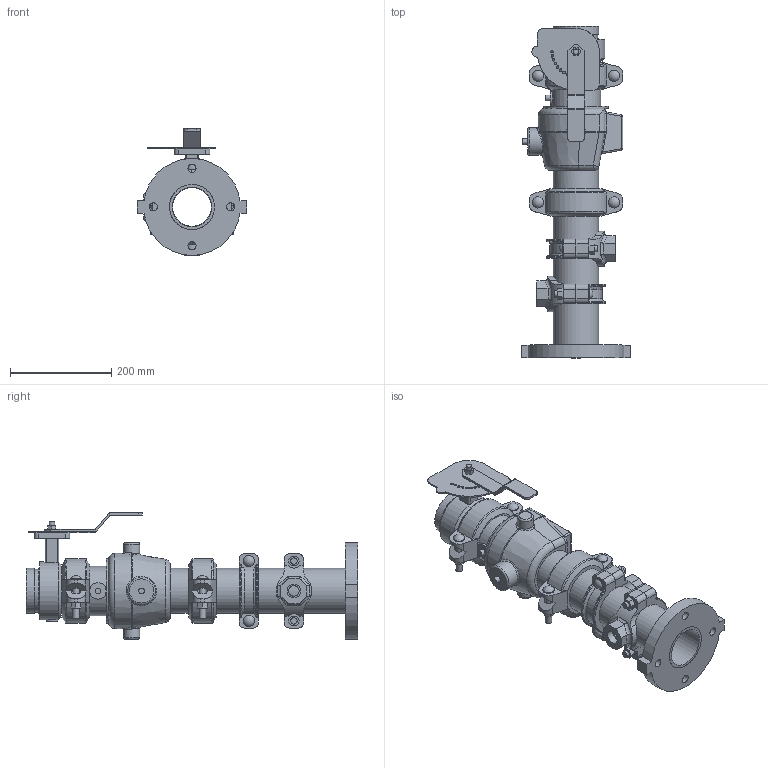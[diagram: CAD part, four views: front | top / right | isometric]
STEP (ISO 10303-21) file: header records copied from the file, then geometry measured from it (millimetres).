
FILE_DESCRIPTION(/* description */ ('VIC DVI PUMP DROP VERT S/380 (OGSxFLG)','CAx-IF Rec.Pracs.---Representation and Presentation of Product Manufacturing Information (PMI)---4.0---2014-10-13'),/* implementation_level */ '2;1');
FILE_NAME(/* name */ 'C:\Users\Public\Documents\Victaulic.Temp\A765\Victaulic_IPS_Vertical DVI_CL 150_Series 380 (OGSxFLG)_03.0x03.0 (80x80).stp',/* time_stamp */ '2022-07-25T11:10:20+02:00',/* author */ ('Vjadhav'),/* organization */ ('Victaulic'),/* preprocessor_version */ 'ST-DEVELOPER v18',/* originating_system */ 'Autodesk Inventor 2020',/* authorisation */ '');
FILE_SCHEMA (('AP242_MANAGED_MODEL_BASED_3D_ENGINEERING_MIM_LF { 1 0 10303 442 1 1 4 }'));
Length unit declared in the file: inch
Products named in the file (9): 380-03.0x03.0; 741-03.0; Pipe-03.0x03.0; 716H-03.0; 177N-03.0; 761-03.0; 920NT-03.0x0.75; 920N LOWER HSG-03.0; 920NT-03.0x0.75_1
Assembly tree (10 placements, depth 3):
  380-03.0x03.0
    741-03.0
    Pipe-03.0x03.0
    177N-03.0  x2
    716H-03.0
    761-03.0
    920NT-03.0x0.75  x2
      920N LOWER HSG-03.0
      920NT-03.0x0.75_1
Bounding box: 215.9 x 654.05 x 249.43 mm (x, y, z)
Volume: 4430341.6 mm3; surface area: 807481.8 mm2
Topology: 10 solids, 11 shells, 648 faces, 1692 edges, 1112 vertices
Faces by surface type: plane 325, cylinder 233, bspline 35, torus 31, sphere 14, cone 10
Full cylindrical faces by diameter (mm): 4.826 x10, 8.636 x4, 10.922 x2, 11.43 x2, 12.7 x12, 15.875 x4, 20.93 x2, 21.982 x4, 22.225 x4, 22.86 x1, 26.924 x2, 31.75 x2, 32.004 x1, 53.975 x1, 55.118 x1, 76.2 x2, 77.927 x2, 80.772 x1, 84.938 x6, 88.9 x15, 97.028 x1, 114.3 x1, 127 x1
Entity records: 16125 total; most frequent: CARTESIAN_POINT 4158, DIRECTION 2401, ORIENTED_EDGE 2304, EDGE_CURVE 1152, AXIS2_PLACEMENT_3D 918, VERTEX_POINT 752, LINE 565, VECTOR 565
